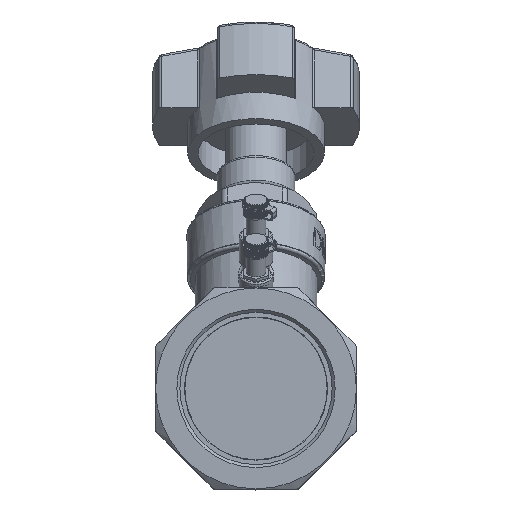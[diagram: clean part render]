
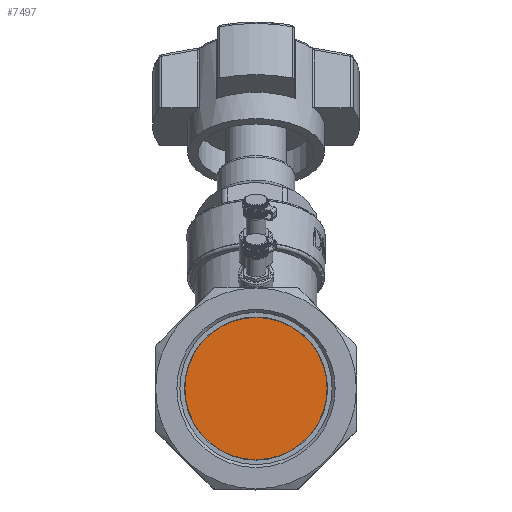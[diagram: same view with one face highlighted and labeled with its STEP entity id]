
A CAD part, top view. The second image highlights one B-rep face of the part: STEP entity #7497.
In plain terms, the highlighted planar face has unit normal (0, 0, 1).
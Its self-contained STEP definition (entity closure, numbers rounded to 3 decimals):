
#7497=ADVANCED_FACE('',(#18316),#18318,.T.);
#18316=FACE_BOUND('',#18317,.T.);
#18317=EDGE_LOOP('',(#25958));
#18318=PLANE('',#18319);
#18319=AXIS2_PLACEMENT_3D('',#18320,#18321,#18322);
#18320=CARTESIAN_POINT('',(0.,0.,67.029));
#18321=DIRECTION('',(0.,0.,1.));
#18322=DIRECTION('',(1.,0.,0.));
#25958=ORIENTED_EDGE('',*,*,#30408,.F.);
#30408=EDGE_CURVE('',#35220,#35220,#35221,.T.);
#35220=VERTEX_POINT('',#62982);
#35221=CIRCLE('',#62983,23.375);
#62982=CARTESIAN_POINT('',(23.375,0.,67.029));
#62983=AXIS2_PLACEMENT_3D('',#62984,#62985,#62986);
#62984=CARTESIAN_POINT('',(0.,0.,67.029));
#62985=DIRECTION('',(0.,0.,-1.));
#62986=DIRECTION('',(1.,0.,0.));
